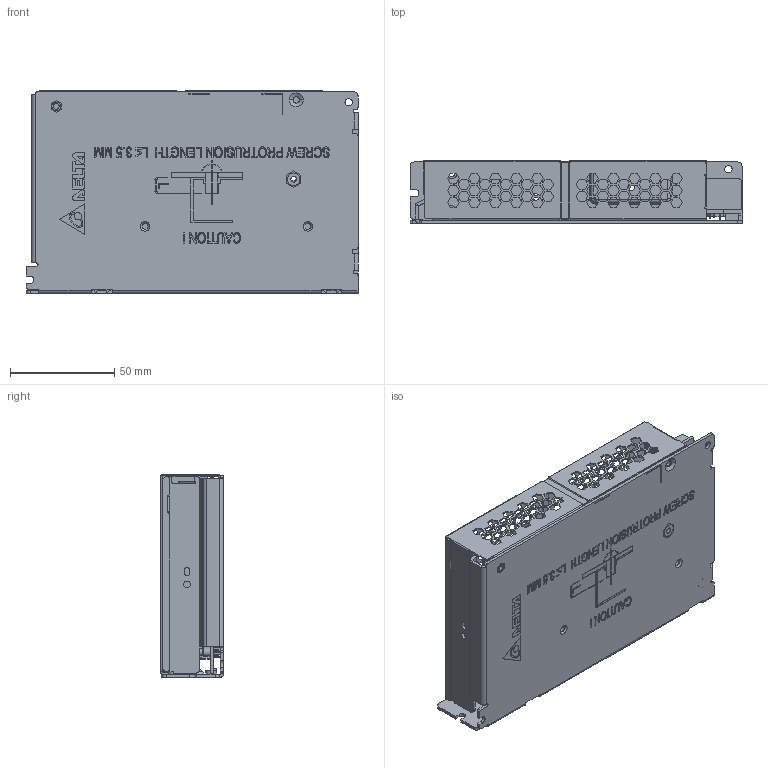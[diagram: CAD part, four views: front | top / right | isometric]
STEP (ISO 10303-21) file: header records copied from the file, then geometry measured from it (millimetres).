
FILE_DESCRIPTION((''),'2;1');
FILE_NAME('PMH-24V150WCLS_ASM','2018-03-13T',('Warud'),(''),'PRO/ENGINEER BY PARAMETRIC TECHNOLOGY CORPORATION, 2010180','PRO/ENGINEER BY PARAMETRIC TECHNOLOGY CORPORATION, 2010180','');
FILE_SCHEMA(('CONFIG_CONTROL_DESIGN','SHAPE_APPEARANCE_LAYERS_GROUPS'));
Products named in the file (15): 330336630102_A_BODY; 330336630102_A_STUD6-32; 330336630102_A_S0-M3-48-ZI; 330336630102_ASM; 330336620000; 3263670900; PWB_MAINBOARD; 307049757W_A_BODY; 307049757W_A_SCREW; 307049757W_ASM; EE_VR131; EE_LED370; 312330170000_LED-HOLDER; ASSY_PWB-MAINBOARD_ASM; PMH-24V150WCLS_ASM
Assembly tree (20 placements, depth 4):
  PMH-24V150WCLS_ASM
    330336630102_ASM
      330336630102_A_BODY
      330336630102_A_STUD6-32
      330336630102_A_S0-M3-48-ZI
    330336620000
    3263670900
    ASSY_PWB-MAINBOARD_ASM
      PWB_MAINBOARD
      307049757W_ASM
        307049757W_A_BODY
        307049757W_A_SCREW  x7
      EE_VR131
      EE_LED370
      312330170000_LED-HOLDER
Bounding box: 159 x 30.1 x 97 mm (x, y, z)
Volume: 72065.4 mm3; surface area: 115020.8 mm2
Topology: 17 solids, 17 shells, 5817 faces, 16528 edges, 10597 vertices
Faces by surface type: plane 4610, cylinder 488, extrusion 376, bspline 244, cone 69, torus 30
Entity records: 220303 total; most frequent: CARTESIAN_POINT 37040, ORIENTED_EDGE 29808, DIRECTION 24747, PRESENTATION_STYLE_ASSIGNMENT 15096, EDGE_CURVE 14904, STYLED_ITEM 14855, CURVE_STYLE 14844, VECTOR 13559
